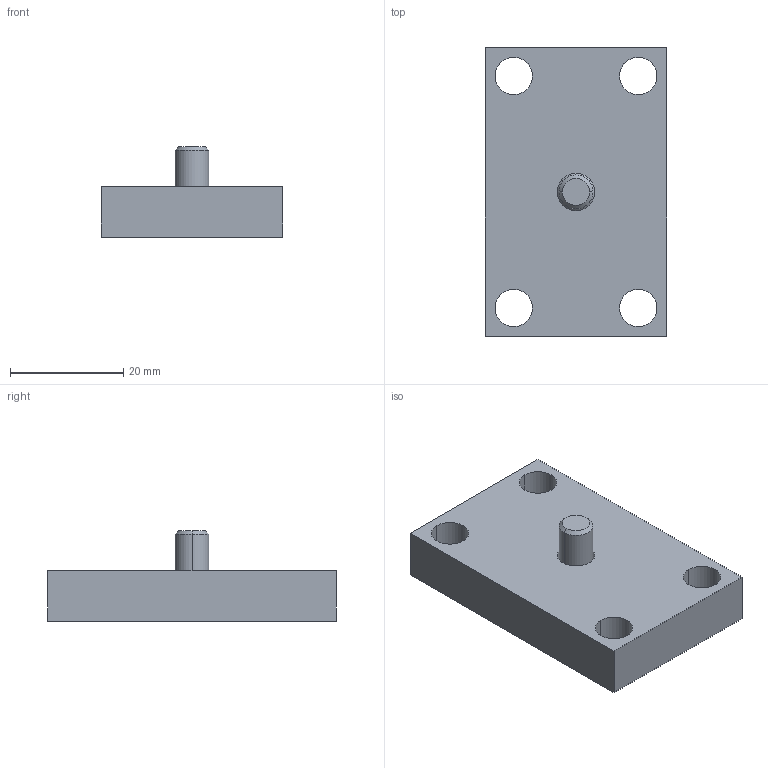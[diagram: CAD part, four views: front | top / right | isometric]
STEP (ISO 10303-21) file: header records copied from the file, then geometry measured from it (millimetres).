
FILE_DESCRIPTION(/* description */ (''),/* implementation_level */ '2;1');
FILE_NAME(/* name */ '3d_bm-32_03393_r00.stp',/* time_stamp */ '2011-01-10T14:17:23+09:00',/* author */ ('MISUMI'),/* organization */ (''),/* preprocessor_version */ 'ST-DEVELOPER v11',/* originating_system */ 'UGS - NX 5.0',/* authorisation */ '');
FILE_SCHEMA (('CONFIG_CONTROL_DESIGN'));
Length unit declared in the file: millimetre
Products named in the file (1): 3d_bm-32_03393_r00
Bounding box: 32 x 51 x 16 mm (x, y, z)
Volume: 13573 mm3; surface area: 5866.5 mm2
Topology: 2 solids, 2 shells, 33 faces, 80 edges, 52 vertices
Faces by surface type: plane 15, cylinder 12, cone 6
Entity records: 1078 total; most frequent: DIRECTION 180, CARTESIAN_POINT 166, ORIENTED_EDGE 160, EDGE_CURVE 80, AXIS2_PLACEMENT_3D 66, VERTEX_POINT 52, LINE 48, VECTOR 48
